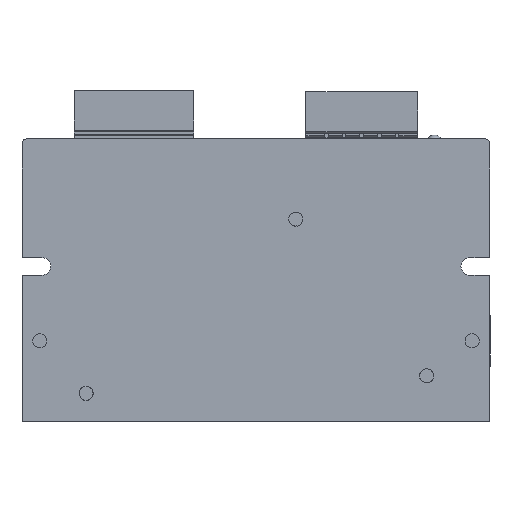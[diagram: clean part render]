
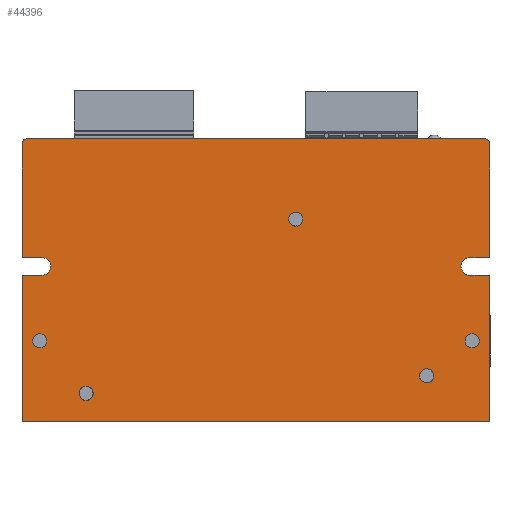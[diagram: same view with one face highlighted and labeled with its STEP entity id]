
A CAD part, front view. The second image highlights one B-rep face of the part: STEP entity #44396.
In plain terms, the highlighted planar face has unit normal (0, -1, 0).
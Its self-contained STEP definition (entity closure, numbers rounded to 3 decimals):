
#13512=DIRECTION('',(1.,0.,0.));
#13513=VECTOR('',#13512,90.6);
#13514=CARTESIAN_POINT('',(27.028,1.2,3.5));
#13515=LINE('',#13514,#13513);
#13759=CARTESIAN_POINT('',(27.028,1.2,2.5));
#13760=DIRECTION('',(0.,1.,0.));
#13761=DIRECTION('',(-1.,0.,0.));
#13762=AXIS2_PLACEMENT_3D('',#13759,#13760,#13761);
#13764=CARTESIAN_POINT('',(117.628,1.2,2.5));
#13765=DIRECTION('',(0.,1.,0.));
#13766=DIRECTION('',(0.,0.,1.));
#13767=AXIS2_PLACEMENT_3D('',#13764,#13765,#13766);
#13769=CARTESIAN_POINT('',(114.678,1.2,-21.75));
#13770=DIRECTION('',(0.,-1.,0.));
#13771=DIRECTION('',(0.,0.,1.));
#13772=AXIS2_PLACEMENT_3D('',#13769,#13770,#13771);
#13774=CARTESIAN_POINT('',(114.678,1.2,-21.75));
#13775=DIRECTION('',(0.,-1.,0.));
#13776=DIRECTION('',(-1.,0.,0.));
#13777=AXIS2_PLACEMENT_3D('',#13774,#13775,#13776);
#13779=CARTESIAN_POINT('',(29.978,1.2,-21.75));
#13780=DIRECTION('',(0.,-1.,0.));
#13781=DIRECTION('',(0.,0.,-1.));
#13782=AXIS2_PLACEMENT_3D('',#13779,#13780,#13781);
#13784=CARTESIAN_POINT('',(29.978,1.2,-21.75));
#13785=DIRECTION('',(0.,-1.,0.));
#13786=DIRECTION('',(1.,0.,0.));
#13787=AXIS2_PLACEMENT_3D('',#13784,#13785,#13786);
#13789=CARTESIAN_POINT('',(38.728,1.2,-46.9));
#13790=DIRECTION('',(0.,-1.,0.));
#13791=DIRECTION('',(-1.,0.,0.));
#13792=AXIS2_PLACEMENT_3D('',#13789,#13790,#13791);
#13794=CARTESIAN_POINT('',(38.728,1.2,-46.9));
#13795=DIRECTION('',(0.,-1.,0.));
#13796=DIRECTION('',(1.,0.,0.));
#13797=AXIS2_PLACEMENT_3D('',#13794,#13795,#13796);
#13799=CARTESIAN_POINT('',(106.128,1.2,-43.4));
#13800=DIRECTION('',(0.,-1.,0.));
#13801=DIRECTION('',(-1.,0.,0.));
#13802=AXIS2_PLACEMENT_3D('',#13799,#13800,#13801);
#13804=CARTESIAN_POINT('',(106.128,1.2,-43.4));
#13805=DIRECTION('',(0.,-1.,0.));
#13806=DIRECTION('',(1.,0.,0.));
#13807=AXIS2_PLACEMENT_3D('',#13804,#13805,#13806);
#13809=CARTESIAN_POINT('',(115.128,1.2,-36.5));
#13810=DIRECTION('',(0.,-1.,0.));
#13811=DIRECTION('',(-1.,0.,0.));
#13812=AXIS2_PLACEMENT_3D('',#13809,#13810,#13811);
#13814=CARTESIAN_POINT('',(115.128,1.2,-36.5));
#13815=DIRECTION('',(0.,-1.,0.));
#13816=DIRECTION('',(1.,0.,0.));
#13817=AXIS2_PLACEMENT_3D('',#13814,#13815,#13816);
#13819=CARTESIAN_POINT('',(80.228,1.2,-12.4));
#13820=DIRECTION('',(0.,-1.,0.));
#13821=DIRECTION('',(-1.,0.,0.));
#13822=AXIS2_PLACEMENT_3D('',#13819,#13820,#13821);
#13824=CARTESIAN_POINT('',(80.228,1.2,-12.4));
#13825=DIRECTION('',(0.,-1.,0.));
#13826=DIRECTION('',(1.,0.,0.));
#13827=AXIS2_PLACEMENT_3D('',#13824,#13825,#13826);
#13829=CARTESIAN_POINT('',(29.528,1.2,-36.5));
#13830=DIRECTION('',(0.,-1.,0.));
#13831=DIRECTION('',(-1.,0.,0.));
#13832=AXIS2_PLACEMENT_3D('',#13829,#13830,#13831);
#13834=CARTESIAN_POINT('',(29.528,1.2,-36.5));
#13835=DIRECTION('',(0.,-1.,0.));
#13836=DIRECTION('',(1.,0.,0.));
#13837=AXIS2_PLACEMENT_3D('',#13834,#13835,#13836);
#13847=DIRECTION('',(0.,0.,1.));
#13848=VECTOR('',#13847,22.5);
#13849=CARTESIAN_POINT('',(26.028,1.2,-20.));
#13850=LINE('',#13849,#13848);
#13863=DIRECTION('',(1.,0.,0.));
#13864=VECTOR('',#13863,3.95);
#13865=CARTESIAN_POINT('',(26.028,1.2,-20.));
#13866=LINE('',#13865,#13864);
#13879=DIRECTION('',(-1.,0.,0.));
#13880=VECTOR('',#13879,3.95);
#13881=CARTESIAN_POINT('',(29.978,1.2,-23.5));
#13882=LINE('',#13881,#13880);
#13895=DIRECTION('',(0.,0.,1.));
#13896=VECTOR('',#13895,29.);
#13897=CARTESIAN_POINT('',(26.028,1.2,-52.5));
#13898=LINE('',#13897,#13896);
#14136=DIRECTION('',(-1.,0.,0.));
#14137=VECTOR('',#14136,92.6);
#14138=CARTESIAN_POINT('',(118.628,1.2,-52.5));
#14139=LINE('',#14138,#14137);
#14259=DIRECTION('',(0.,0.,-1.));
#14260=VECTOR('',#14259,29.);
#14261=CARTESIAN_POINT('',(118.628,1.2,-23.5));
#14262=LINE('',#14261,#14260);
#14475=DIRECTION('',(-1.,0.,0.));
#14476=VECTOR('',#14475,3.95);
#14477=CARTESIAN_POINT('',(118.628,1.2,-23.5));
#14478=LINE('',#14477,#14476);
#14491=DIRECTION('',(1.,0.,0.));
#14492=VECTOR('',#14491,3.95);
#14493=CARTESIAN_POINT('',(114.678,1.2,-20.));
#14494=LINE('',#14493,#14492);
#14503=DIRECTION('',(0.,0.,-1.));
#14504=VECTOR('',#14503,22.5);
#14505=CARTESIAN_POINT('',(118.628,1.2,2.5));
#14506=LINE('',#14505,#14504);
#16079=CARTESIAN_POINT('',(26.028,1.2,2.5));
#16080=CARTESIAN_POINT('',(27.028,1.2,3.5));
#16081=VERTEX_POINT('',#16079);
#16082=VERTEX_POINT('',#16080);
#16083=CARTESIAN_POINT('',(26.028,1.2,-20.));
#16084=VERTEX_POINT('',#16083);
#16085=CARTESIAN_POINT('',(29.978,1.2,-20.));
#16086=VERTEX_POINT('',#16085);
#16087=CARTESIAN_POINT('',(31.728,1.2,-21.75));
#16088=VERTEX_POINT('',#16087);
#16089=CARTESIAN_POINT('',(29.978,1.2,-23.5));
#16090=VERTEX_POINT('',#16089);
#16091=CARTESIAN_POINT('',(26.028,1.2,-23.5));
#16092=VERTEX_POINT('',#16091);
#16093=CARTESIAN_POINT('',(26.028,1.2,-52.5));
#16094=VERTEX_POINT('',#16093);
#16095=CARTESIAN_POINT('',(118.628,1.2,-52.5));
#16096=VERTEX_POINT('',#16095);
#16097=CARTESIAN_POINT('',(118.628,1.2,-23.5));
#16098=VERTEX_POINT('',#16097);
#16099=CARTESIAN_POINT('',(114.678,1.2,-23.5));
#16100=VERTEX_POINT('',#16099);
#16101=CARTESIAN_POINT('',(112.928,1.2,-21.75));
#16102=VERTEX_POINT('',#16101);
#16103=CARTESIAN_POINT('',(114.678,1.2,-20.));
#16104=VERTEX_POINT('',#16103);
#16105=CARTESIAN_POINT('',(118.628,1.2,-20.));
#16106=VERTEX_POINT('',#16105);
#16107=CARTESIAN_POINT('',(118.628,1.2,2.5));
#16108=VERTEX_POINT('',#16107);
#16109=CARTESIAN_POINT('',(117.628,1.2,3.5));
#16110=VERTEX_POINT('',#16109);
#16111=CARTESIAN_POINT('',(37.328,1.2,-46.9));
#16112=CARTESIAN_POINT('',(40.128,1.2,-46.9));
#16113=VERTEX_POINT('',#16111);
#16114=VERTEX_POINT('',#16112);
#16115=CARTESIAN_POINT('',(104.728,1.2,-43.4));
#16116=CARTESIAN_POINT('',(107.528,1.2,-43.4));
#16117=VERTEX_POINT('',#16115);
#16118=VERTEX_POINT('',#16116);
#16119=CARTESIAN_POINT('',(113.728,1.2,-36.5));
#16120=CARTESIAN_POINT('',(116.528,1.2,-36.5));
#16121=VERTEX_POINT('',#16119);
#16122=VERTEX_POINT('',#16120);
#16123=CARTESIAN_POINT('',(78.828,1.2,-12.4));
#16124=CARTESIAN_POINT('',(81.628,1.2,-12.4));
#16125=VERTEX_POINT('',#16123);
#16126=VERTEX_POINT('',#16124);
#16127=CARTESIAN_POINT('',(28.128,1.2,-36.5));
#16128=CARTESIAN_POINT('',(30.928,1.2,-36.5));
#16129=VERTEX_POINT('',#16127);
#16130=VERTEX_POINT('',#16128);
#44329=CARTESIAN_POINT('',(72.328,1.2,-24.5));
#44330=DIRECTION('',(0.,1.,0.));
#44331=DIRECTION('',(1.,0.,0.));
#44332=AXIS2_PLACEMENT_3D('',#44329,#44330,#44331);
#44333=PLANE('',#44332);
#44335=ORIENTED_EDGE('',*,*,#44334,.T.);
#44336=ORIENTED_EDGE('',*,*,#43762,.T.);
#44337=ORIENTED_EDGE('',*,*,#44313,.T.);
#44339=ORIENTED_EDGE('',*,*,#44338,.T.);
#44341=ORIENTED_EDGE('',*,*,#44340,.F.);
#44343=ORIENTED_EDGE('',*,*,#44342,.T.);
#44345=ORIENTED_EDGE('',*,*,#44344,.T.);
#44347=ORIENTED_EDGE('',*,*,#44346,.F.);
#44349=ORIENTED_EDGE('',*,*,#44348,.T.);
#44351=ORIENTED_EDGE('',*,*,#44350,.T.);
#44353=ORIENTED_EDGE('',*,*,#44352,.T.);
#44355=ORIENTED_EDGE('',*,*,#44354,.F.);
#44357=ORIENTED_EDGE('',*,*,#44356,.T.);
#44359=ORIENTED_EDGE('',*,*,#44358,.T.);
#44361=ORIENTED_EDGE('',*,*,#44360,.F.);
#44363=ORIENTED_EDGE('',*,*,#44362,.T.);
#44364=EDGE_LOOP('',(#44335,#44336,#44337,#44339,#44341,#44343,#44345,#44347,
#44349,#44351,#44353,#44355,#44357,#44359,#44361,#44363));
#44365=FACE_OUTER_BOUND('',#44364,.F.);
#44367=ORIENTED_EDGE('',*,*,#44366,.T.);
#44369=ORIENTED_EDGE('',*,*,#44368,.T.);
#44370=EDGE_LOOP('',(#44367,#44369));
#44371=FACE_BOUND('',#44370,.F.);
#44373=ORIENTED_EDGE('',*,*,#44372,.T.);
#44375=ORIENTED_EDGE('',*,*,#44374,.T.);
#44376=EDGE_LOOP('',(#44373,#44375));
#44377=FACE_BOUND('',#44376,.F.);
#44379=ORIENTED_EDGE('',*,*,#44378,.T.);
#44381=ORIENTED_EDGE('',*,*,#44380,.T.);
#44382=EDGE_LOOP('',(#44379,#44381));
#44383=FACE_BOUND('',#44382,.F.);
#44385=ORIENTED_EDGE('',*,*,#44384,.T.);
#44387=ORIENTED_EDGE('',*,*,#44386,.T.);
#44388=EDGE_LOOP('',(#44385,#44387));
#44389=FACE_BOUND('',#44388,.F.);
#44391=ORIENTED_EDGE('',*,*,#44390,.T.);
#44393=ORIENTED_EDGE('',*,*,#44392,.T.);
#44394=EDGE_LOOP('',(#44391,#44393));
#44395=FACE_BOUND('',#44394,.F.);
#44396=ADVANCED_FACE('',(#44365,#44371,#44377,#44383,#44389,#44395),#44333,.F.);
#13763=CIRCLE('',#13762,1.);
#13768=CIRCLE('',#13767,1.);
#13773=CIRCLE('',#13772,1.75);
#13778=CIRCLE('',#13777,1.75);
#13783=CIRCLE('',#13782,1.75);
#13788=CIRCLE('',#13787,1.75);
#13793=CIRCLE('',#13792,1.4);
#13798=CIRCLE('',#13797,1.4);
#13803=CIRCLE('',#13802,1.4);
#13808=CIRCLE('',#13807,1.4);
#13813=CIRCLE('',#13812,1.4);
#13818=CIRCLE('',#13817,1.4);
#13823=CIRCLE('',#13822,1.4);
#13828=CIRCLE('',#13827,1.4);
#13833=CIRCLE('',#13832,1.4);
#13838=CIRCLE('',#13837,1.4);
#43762=EDGE_CURVE('',#16082,#16110,#13515,.T.);
#44313=EDGE_CURVE('',#16110,#16108,#13768,.T.);
#44334=EDGE_CURVE('',#16081,#16082,#13763,.T.);
#44338=EDGE_CURVE('',#16108,#16106,#14506,.T.);
#44340=EDGE_CURVE('',#16104,#16106,#14494,.T.);
#44342=EDGE_CURVE('',#16104,#16102,#13773,.T.);
#44344=EDGE_CURVE('',#16102,#16100,#13778,.T.);
#44346=EDGE_CURVE('',#16098,#16100,#14478,.T.);
#44348=EDGE_CURVE('',#16098,#16096,#14262,.T.);
#44350=EDGE_CURVE('',#16096,#16094,#14139,.T.);
#44352=EDGE_CURVE('',#16094,#16092,#13898,.T.);
#44354=EDGE_CURVE('',#16090,#16092,#13882,.T.);
#44356=EDGE_CURVE('',#16090,#16088,#13783,.T.);
#44358=EDGE_CURVE('',#16088,#16086,#13788,.T.);
#44360=EDGE_CURVE('',#16084,#16086,#13866,.T.);
#44362=EDGE_CURVE('',#16084,#16081,#13850,.T.);
#44366=EDGE_CURVE('',#16113,#16114,#13793,.T.);
#44368=EDGE_CURVE('',#16114,#16113,#13798,.T.);
#44372=EDGE_CURVE('',#16117,#16118,#13803,.T.);
#44374=EDGE_CURVE('',#16118,#16117,#13808,.T.);
#44378=EDGE_CURVE('',#16121,#16122,#13813,.T.);
#44380=EDGE_CURVE('',#16122,#16121,#13818,.T.);
#44384=EDGE_CURVE('',#16125,#16126,#13823,.T.);
#44386=EDGE_CURVE('',#16126,#16125,#13828,.T.);
#44390=EDGE_CURVE('',#16129,#16130,#13833,.T.);
#44392=EDGE_CURVE('',#16130,#16129,#13838,.T.);
